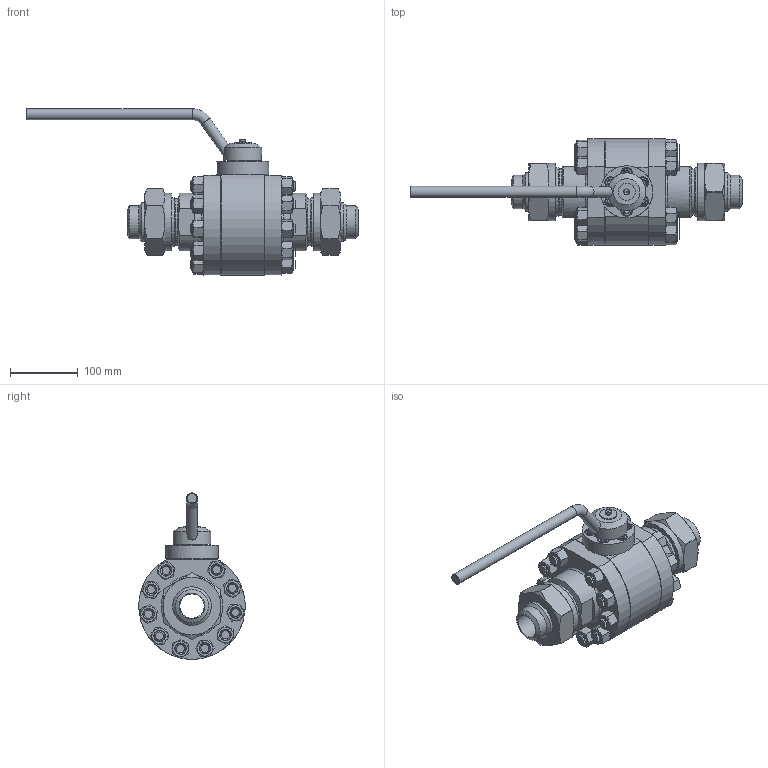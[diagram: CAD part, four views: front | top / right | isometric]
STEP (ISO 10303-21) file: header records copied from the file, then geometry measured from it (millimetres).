
FILE_DESCRIPTION(('STEP AP203'), '1');
FILE_NAME('ZARD 040.200.30.P.stp', '2013-12-06T07:15:46', ($), ($), 'ASCON STEP Converter 1.3', 'Kompas 3D', '');
FILE_SCHEMA(('CONFIG_CONTROL_DESIGN','SUPPORT_RESOURCE_SCHEMA'));
Length unit declared in the file: millimetre
Products named in the file (1): 141
Bounding box: 489.31 x 156.8 x 245.21 mm (x, y, z)
Volume: 2786800.6 mm3; surface area: 404636.4 mm2
Topology: 1 solids, 18 shells, 798 faces, 1876 edges, 1170 vertices
Faces by surface type: plane 421, cone 210, cylinder 160, torus 7
Full cylindrical faces by diameter (mm): 5 x1, 5.3 x1, 8 x8, 8.376 x4, 8.5 x1, 10 x6, 11 x6, 16 x48, 17 x7, 18 x10, 21.5 x1, 25 x2, 34.8 x1, 35 x1, 35.5 x1, 36 x4, 40 x1, 49 x2, 56 x1, 57 x2, 62 x2, 69 x2, 69.835 x2, 70 x3, 72 x2, 77 x1, 85 x6
Entity records: 36817 total; most frequent: CARTESIAN_POINT 18611, DIRECTION 3801, ORIENTED_EDGE 3728, EDGE_CURVE 1864, AXIS2_PLACEMENT_3D 1551, VERTEX_POINT 1170, EDGE_LOOP 920, ADVANCED_FACE 798
